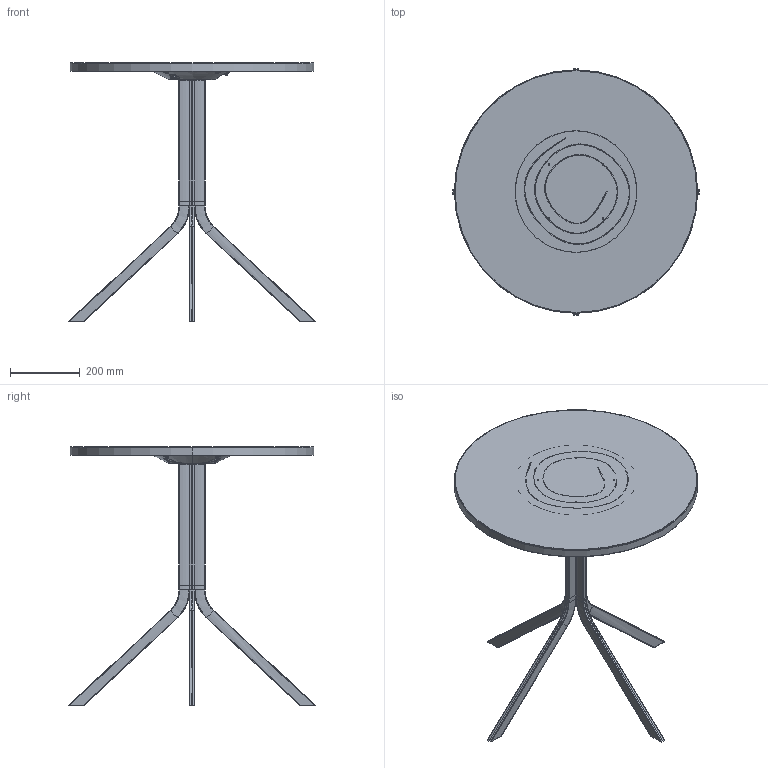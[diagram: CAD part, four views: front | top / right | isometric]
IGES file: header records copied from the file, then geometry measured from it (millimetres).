
Start section: 3D InterOp IGES (v. 2023 1.0.1), Spatial Corp. Copyright (c) 1999-2020.
Global section: file name: OKTV20FXX + OKTO10FXX.igs; native system: Spatial Corp.; preprocessor: 3D InterOp GENERIC/IGES 3.0; author: Noname; organization: Noname; date: 20240701.142529; units: millimetre
Bounding box: 708.28 x 708.28 x 743.71 mm (x, y, z)
Surface area: 1926490 mm2 (no closed solid volume)
Topology: 0 solids, 0 shells, 3943 faces, 21146 edges, 20908 vertices
Faces by surface type: revolution 1620, extrusion 1322, bspline 988, offset 13
